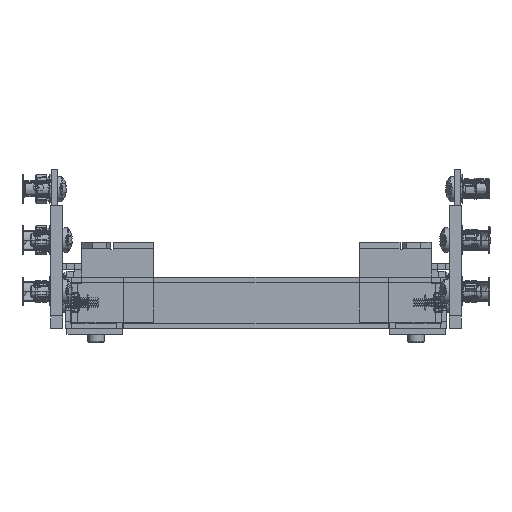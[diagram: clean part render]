
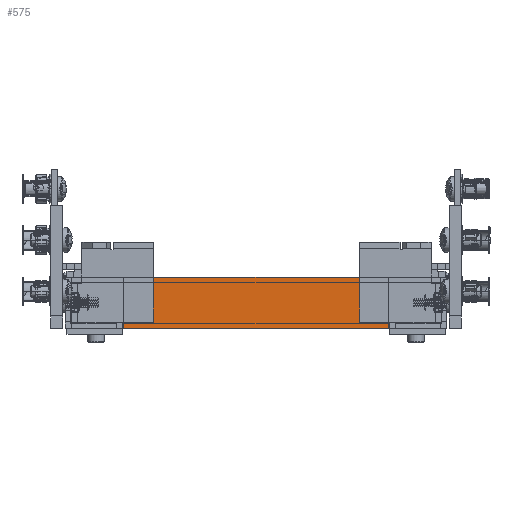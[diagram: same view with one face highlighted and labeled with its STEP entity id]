
A CAD part, front view. The second image highlights one B-rep face of the part: STEP entity #575.
In plain terms, the highlighted planar face has unit normal (0, -1, 0) as drawn and (-1, 0, 0) by its records, which use the part's own axes.
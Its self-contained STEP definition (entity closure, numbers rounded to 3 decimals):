
#575 = ADVANCED_FACE ( 'NONE', ( #48897 ), #79010, .F. ) ;
#700 = CARTESIAN_POINT ( 'NONE',  ( -941.51, 64.5, 21.9 ) ) ;
#1595 = EDGE_CURVE ( 'NONE', #16925, #83382, #49286, .T. ) ;
#2018 = CARTESIAN_POINT ( 'NONE',  ( -941.51, 64.5, 3.1 ) ) ;
#2821 = EDGE_CURVE ( 'NONE', #89853, #18276, #24660, .T. ) ;
#4129 = VERTEX_POINT ( 'NONE', #700 ) ;
#4308 = CARTESIAN_POINT ( 'NONE',  ( -941.51, 64.5, 2.5 ) ) ;
#5431 = VECTOR ( 'NONE', #80736, 1000. ) ;
#7754 = VECTOR ( 'NONE', #91815, 1000. ) ;
#11074 = LINE ( 'NONE', #54510, #70934 ) ;
#11401 = CARTESIAN_POINT ( 'NONE',  ( -941.51, 64.5, 2.5 ) ) ;
#11696 = DIRECTION ( 'NONE',  ( 0., 0., 1. ) ) ;
#11905 = EDGE_CURVE ( 'NONE', #16925, #12156, #89115, .T. ) ;
#12156 = VERTEX_POINT ( 'NONE', #57903 ) ;
#12225 = AXIS2_PLACEMENT_3D ( 'NONE', #11401, #41503, #15514 ) ;
#14122 = LINE ( 'NONE', #37780, #86681 ) ;
#15032 = LINE ( 'NONE', #66860, #49487 ) ;
#15506 = ORIENTED_EDGE ( 'NONE', *, *, #37722, .T. ) ;
#15514 = DIRECTION ( 'NONE',  ( 0., 0., -1. ) ) ;
#16925 = VERTEX_POINT ( 'NONE', #43948 ) ;
#17740 = DIRECTION ( 'NONE',  ( 0., 0., 1. ) ) ;
#17752 = EDGE_CURVE ( 'NONE', #4129, #17921, #79778, .T. ) ;
#17921 = VERTEX_POINT ( 'NONE', #29868 ) ;
#18276 = VERTEX_POINT ( 'NONE', #89870 ) ;
#21918 = DIRECTION ( 'NONE',  ( 0., 0., 1. ) ) ;
#24499 = ORIENTED_EDGE ( 'NONE', *, *, #2821, .T. ) ;
#24660 = LINE ( 'NONE', #2018, #7754 ) ;
#28670 = EDGE_CURVE ( 'NONE', #18276, #12156, #14122, .T. ) ;
#29868 = CARTESIAN_POINT ( 'NONE',  ( -941.51, 64.5, 25. ) ) ;
#30162 = EDGE_LOOP ( 'NONE', ( #60256, #15506, #72036, #31831, #69916, #24499, #72629, #37281 ) ) ;
#31831 = ORIENTED_EDGE ( 'NONE', *, *, #17752, .F. ) ;
#37281 = ORIENTED_EDGE ( 'NONE', *, *, #11905, .F. ) ;
#37722 = EDGE_CURVE ( 'NONE', #83382, #44065, #15032, .T. ) ;
#37780 = CARTESIAN_POINT ( 'NONE',  ( -941.51, -90.5, 0. ) ) ;
#41177 = DIRECTION ( 'NONE',  ( 0., -1., 0. ) ) ;
#41503 = DIRECTION ( 'NONE',  ( 1., 0., 0. ) ) ;
#42607 = CARTESIAN_POINT ( 'NONE',  ( -941.51, -64.5, 25. ) ) ;
#43948 = CARTESIAN_POINT ( 'NONE',  ( -941.51, -64.5, 3.1 ) ) ;
#43953 = EDGE_CURVE ( 'NONE', #17921, #44065, #11074, .T. ) ;
#44065 = VERTEX_POINT ( 'NONE', #42607 ) ;
#45188 = DIRECTION ( 'NONE',  ( 0., -1., 0. ) ) ;
#48897 = FACE_OUTER_BOUND ( 'NONE', #30162, .T. ) ;
#49286 = LINE ( 'NONE', #85372, #62963 ) ;
#49487 = VECTOR ( 'NONE', #21918, 1000. ) ;
#50738 = EDGE_CURVE ( 'NONE', #4129, #89853, #65933, .T. ) ;
#54510 = CARTESIAN_POINT ( 'NONE',  ( -941.51, 64.5, 25. ) ) ;
#57215 = VECTOR ( 'NONE', #11696, 1000. ) ;
#57903 = CARTESIAN_POINT ( 'NONE',  ( -941.51, -64.5, 0. ) ) ;
#59145 = VECTOR ( 'NONE', #81216, 1000. ) ;
#60256 = ORIENTED_EDGE ( 'NONE', *, *, #1595, .T. ) ;
#62963 = VECTOR ( 'NONE', #17740, 1000. ) ;
#65933 = LINE ( 'NONE', #89137, #5431 ) ;
#66860 = CARTESIAN_POINT ( 'NONE',  ( -941.51, -64.5, 21.9 ) ) ;
#69916 = ORIENTED_EDGE ( 'NONE', *, *, #50738, .T. ) ;
#70934 = VECTOR ( 'NONE', #41177, 1000. ) ;
#72036 = ORIENTED_EDGE ( 'NONE', *, *, #43953, .F. ) ;
#72629 = ORIENTED_EDGE ( 'NONE', *, *, #28670, .T. ) ;
#77398 = CARTESIAN_POINT ( 'NONE',  ( -941.51, -64.5, 21.9 ) ) ;
#79010 = PLANE ( 'NONE',  #12225 ) ;
#79778 = LINE ( 'NONE', #4308, #57215 ) ;
#80736 = DIRECTION ( 'NONE',  ( 0., 0., -1. ) ) ;
#81216 = DIRECTION ( 'NONE',  ( 0., 0., -1. ) ) ;
#83382 = VERTEX_POINT ( 'NONE', #77398 ) ;
#85372 = CARTESIAN_POINT ( 'NONE',  ( -941.51, -64.5, 2.5 ) ) ;
#86681 = VECTOR ( 'NONE', #45188, 1000. ) ;
#88433 = CARTESIAN_POINT ( 'NONE',  ( -941.51, 64.5, 3.1 ) ) ;
#89115 = LINE ( 'NONE', #96498, #59145 ) ;
#89137 = CARTESIAN_POINT ( 'NONE',  ( -941.51, 64.5, 2.5 ) ) ;
#89853 = VERTEX_POINT ( 'NONE', #88433 ) ;
#89870 = CARTESIAN_POINT ( 'NONE',  ( -941.51, 64.5, 0. ) ) ;
#91815 = DIRECTION ( 'NONE',  ( 0., 0., -1. ) ) ;
#96498 = CARTESIAN_POINT ( 'NONE',  ( -941.51, -64.5, 2.5 ) ) ;
